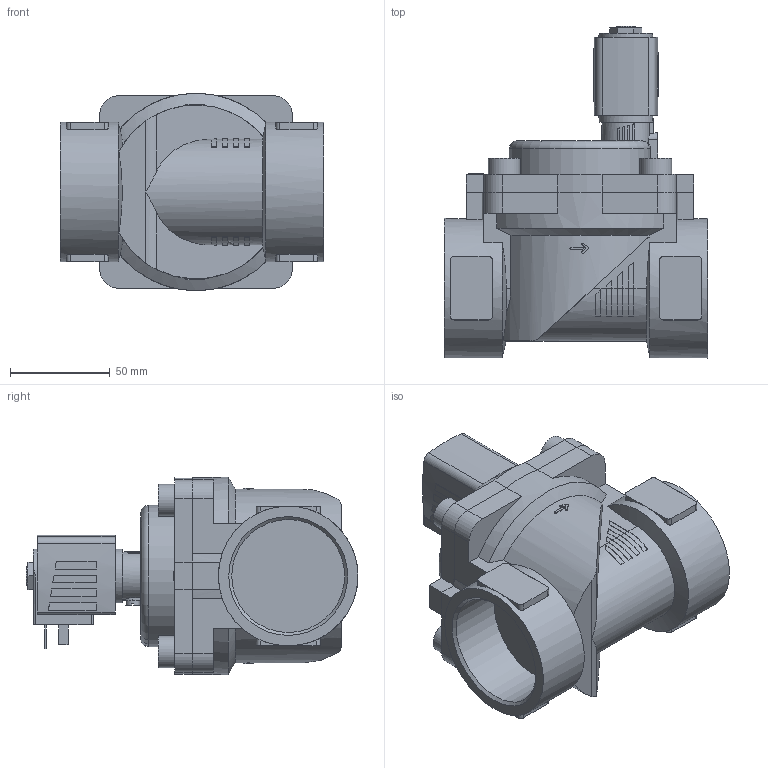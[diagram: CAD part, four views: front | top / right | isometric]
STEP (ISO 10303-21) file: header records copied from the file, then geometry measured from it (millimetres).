
FILE_DESCRIPTION(/* description */ ('STEP AP214'),/* implementation_level */ '2;1');
FILE_NAME(/* name */ '6281-327324-2_2-Way_Solenoid_Valve__Servo-assisted__General_Purpose',/* time_stamp */ '2024-09-04T14:03:32+02:00',/* author */ ('License CC BY-ND 4.0'),/* organization */ ('CADENAS'),/* preprocessor_version */ 'ST-DEVELOPER v19.3',/* originating_system */ 'PARTsolutions',/* authorisation */ ' ');
FILE_SCHEMA (('AUTOMOTIVE_DESIGN {1 0 10303 214 3 1 1}'));
Length unit declared in the file: millimetre
Products named in the file (4): 6281-327324-2/2-Way Solenoid Valve, Servo-assisted, General Purpose; 5281ev402MS2/2-Wege-Magnetventil mit Servomembran-Deckel 99HA15 ; 6213-40G2MS-Gehaeuse-; AC10ex-5NA38-Plan-Coil
Assembly tree (3 placements, depth 2):
  6281-327324-2/2-Way Solenoid Valve, Servo-assisted, General Purpose
    5281ev402MS2/2-Wege-Magnetventil mit Servomembran-Deckel 99HA15 
    6213-40G2MS-Gehaeuse-
    AC10ex-5NA38-Plan-Coil
Bounding box: 132 x 166.5 x 99 mm (x, y, z)
Volume: 728764.4 mm3; surface area: 102610.1 mm2
Topology: 3 solids, 3 shells, 352 faces, 924 edges, 611 vertices
Faces by surface type: plane 242, cylinder 96, cone 13, torus 1
Full cylindrical faces by diameter (mm): 2.013 x1, 7 x1, 9.74 x1, 16 x4, 27 x1, 56.656 x2, 70 x2
Entity records: 12145 total; most frequent: CARTESIAN_POINT 2137, ORIENTED_EDGE 1798, DIRECTION 1790, EDGE_CURVE 899, AXIS2_PLACEMENT_3D 607, VERTEX_POINT 602, LINE 576, VECTOR 576
